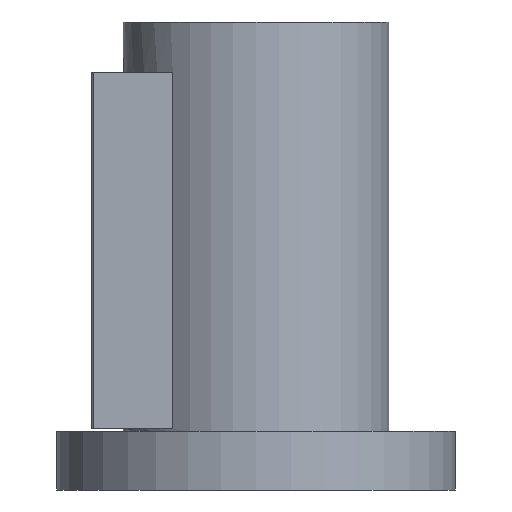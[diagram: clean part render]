
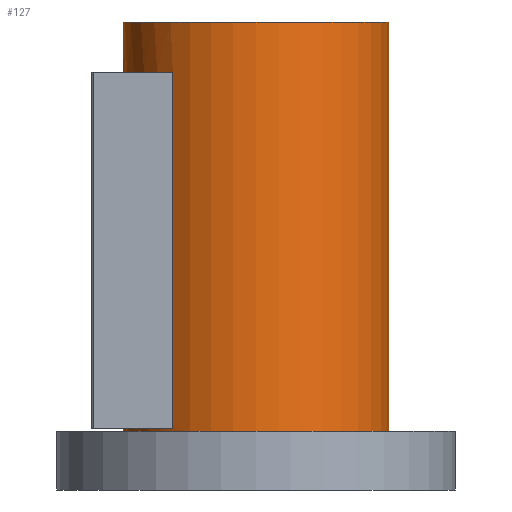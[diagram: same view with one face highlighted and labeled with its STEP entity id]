
A CAD part, front view. The second image highlights one B-rep face of the part: STEP entity #127.
In plain terms, the highlighted cylindrical face has radius 50 mm (diameter 100 mm), a full revolution.
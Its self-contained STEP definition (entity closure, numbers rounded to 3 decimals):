
#127=ADVANCED_FACE('',(#200,#201,#202),#155,.T.);
#155=CYLINDRICAL_SURFACE('',#508,50.);
#168=LINE('',#698,#184);
#169=LINE('',#702,#185);
#184=VECTOR('',#568,1.);
#185=VECTOR('',#571,1.);
#200=FACE_BOUND('',#245,.T.);
#201=FACE_BOUND('',#246,.T.);
#202=FACE_BOUND('',#247,.T.);
#245=EDGE_LOOP('',(#305));
#246=EDGE_LOOP('',(#306));
#247=EDGE_LOOP('',(#307,#308,#309,#310));
#305=ORIENTED_EDGE('',*,*,#431,.F.);
#306=ORIENTED_EDGE('',*,*,#432,.T.);
#307=ORIENTED_EDGE('',*,*,#433,.F.);
#308=ORIENTED_EDGE('',*,*,#434,.F.);
#309=ORIENTED_EDGE('',*,*,#435,.T.);
#310=ORIENTED_EDGE('',*,*,#436,.F.);
#393=VERTEX_POINT('',#692);
#394=VERTEX_POINT('',#694);
#395=VERTEX_POINT('',#696);
#396=VERTEX_POINT('',#697);
#397=VERTEX_POINT('',#699);
#398=VERTEX_POINT('',#701);
#431=EDGE_CURVE('',#393,#393,#475,.T.);
#432=EDGE_CURVE('',#394,#394,#476,.T.);
#433=EDGE_CURVE('',#395,#396,#477,.T.);
#434=EDGE_CURVE('',#397,#395,#168,.T.);
#435=EDGE_CURVE('',#397,#398,#478,.T.);
#436=EDGE_CURVE('',#396,#398,#169,.T.);
#475=CIRCLE('',#504,50.);
#476=CIRCLE('',#505,50.);
#477=CIRCLE('',#506,50.);
#478=CIRCLE('',#507,50.);
#504=AXIS2_PLACEMENT_3D('',#691,#562,#563);
#505=AXIS2_PLACEMENT_3D('',#693,#564,#565);
#506=AXIS2_PLACEMENT_3D('',#695,#566,#567);
#507=AXIS2_PLACEMENT_3D('',#700,#569,#570);
#508=AXIS2_PLACEMENT_3D('',#703,#572,#573);
#562=DIRECTION('',(0.,0.,1.));
#563=DIRECTION('',(1.,0.,0.));
#564=DIRECTION('',(0.,0.,1.));
#565=DIRECTION('',(1.,0.,0.));
#566=DIRECTION('',(0.,0.,-1.));
#567=DIRECTION('',(-1.,0.,0.));
#568=DIRECTION('',(0.,0.,1.));
#569=DIRECTION('',(0.,0.,-1.));
#570=DIRECTION('',(-1.,0.,0.));
#571=DIRECTION('',(0.,0.,-1.));
#572=DIRECTION('',(0.,0.,-1.));
#573=DIRECTION('',(-1.,0.,0.));
#691=CARTESIAN_POINT('',(0.,0.,176.));
#692=CARTESIAN_POINT('',(50.,0.,176.));
#693=CARTESIAN_POINT('',(0.,0.,22.));
#694=CARTESIAN_POINT('',(50.,0.,22.));
#695=CARTESIAN_POINT('',(0.,0.,157.));
#696=CARTESIAN_POINT('',(-31.289,-39.,157.));
#697=CARTESIAN_POINT('',(-31.289,39.,157.));
#698=CARTESIAN_POINT('',(-31.289,-39.,176.));
#699=CARTESIAN_POINT('',(-31.289,-39.,23.));
#700=CARTESIAN_POINT('',(0.,0.,23.));
#701=CARTESIAN_POINT('',(-31.289,39.,23.));
#702=CARTESIAN_POINT('',(-31.289,39.,176.));
#703=CARTESIAN_POINT('',(0.,0.,176.));
